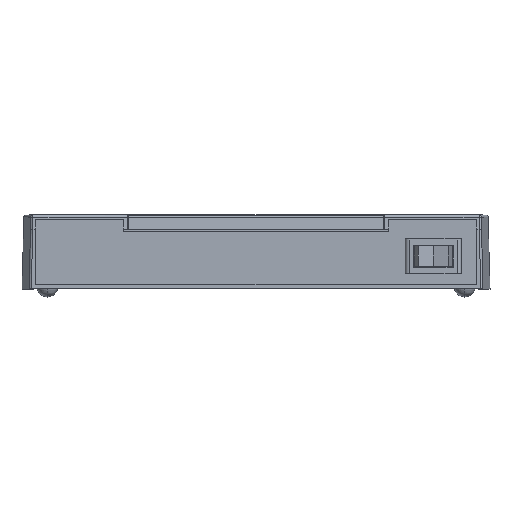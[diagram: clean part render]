
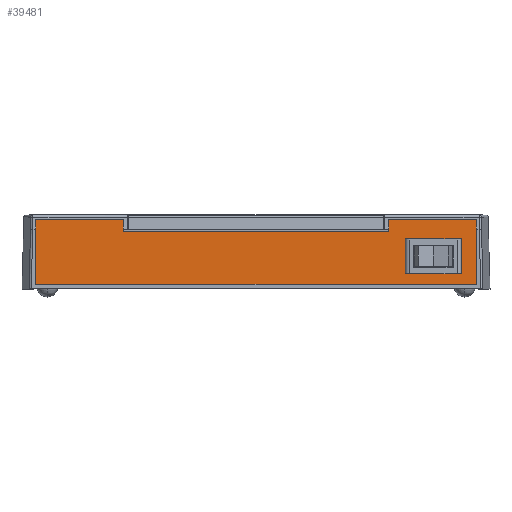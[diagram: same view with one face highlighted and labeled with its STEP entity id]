
A CAD part, top view. The second image highlights one B-rep face of the part: STEP entity #39481.
In plain terms, the highlighted planar face has unit normal (0, 0, 1).
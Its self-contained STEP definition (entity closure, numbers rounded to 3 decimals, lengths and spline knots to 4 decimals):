
#14423=DIRECTION('',(0.,1.,0.));
#14424=VECTOR('',#14423,0.19);
#14425=CARTESIAN_POINT('',(-2.34,1.02,2.8295));
#14426=LINE('',#14425,#14424);
#14427=DIRECTION('',(-1.,0.,0.));
#14428=VECTOR('',#14427,0.6887);
#14429=CARTESIAN_POINT('',(-1.6213,0.99,2.8295));
#14430=LINE('',#14429,#14428);
#14431=DIRECTION('',(1.,0.,0.));
#14432=VECTOR('',#14431,0.049);
#14433=CARTESIAN_POINT('',(-1.6213,0.99,2.8295));
#14434=LINE('',#14433,#14432);
#14435=DIRECTION('',(-1.,0.,0.));
#14436=VECTOR('',#14435,1.3197);
#14437=CARTESIAN_POINT('',(-0.2526,0.99,2.8295));
#14438=LINE('',#14437,#14436);
#14439=DIRECTION('',(1.,0.,0.));
#14440=VECTOR('',#14439,0.049);
#14441=CARTESIAN_POINT('',(-0.2526,0.99,2.8295));
#14442=LINE('',#14441,#14440);
#14443=DIRECTION('',(-1.,0.,0.));
#14444=VECTOR('',#14443,0.4072);
#14445=CARTESIAN_POINT('',(0.2036,0.99,2.8295));
#14446=LINE('',#14445,#14444);
#14447=DIRECTION('',(1.,0.,0.));
#14448=VECTOR('',#14447,0.049);
#14449=CARTESIAN_POINT('',(0.2036,0.99,2.8295));
#14450=LINE('',#14449,#14448);
#14451=DIRECTION('',(-1.,0.,0.));
#14452=VECTOR('',#14451,1.3197);
#14453=CARTESIAN_POINT('',(1.5723,0.99,2.8295));
#14454=LINE('',#14453,#14452);
#14455=DIRECTION('',(1.,0.,0.));
#14456=VECTOR('',#14455,0.049);
#14457=CARTESIAN_POINT('',(1.5723,0.99,2.8295));
#14458=LINE('',#14457,#14456);
#14459=DIRECTION('',(-1.,0.,0.));
#14460=VECTOR('',#14459,0.6887);
#14461=CARTESIAN_POINT('',(2.31,0.99,2.8295));
#14462=LINE('',#14461,#14460);
#14463=DIRECTION('',(0.,-1.,0.));
#14464=VECTOR('',#14463,0.19);
#14465=CARTESIAN_POINT('',(2.34,1.21,2.8295));
#14466=LINE('',#14465,#14464);
#14467=DIRECTION('',(-1.,0.,0.));
#14468=VECTOR('',#14467,1.545);
#14469=CARTESIAN_POINT('',(3.885,1.21,2.8295));
#14470=LINE('',#14469,#14468);
#14471=DIRECTION('',(0.,1.,0.));
#14472=VECTOR('',#14471,1.14);
#14473=CARTESIAN_POINT('',(3.885,0.07,2.8295));
#14474=LINE('',#14473,#14472);
#14475=DIRECTION('',(1.,0.,0.));
#14476=VECTOR('',#14475,7.77);
#14477=CARTESIAN_POINT('',(-3.885,0.07,2.8295));
#14478=LINE('',#14477,#14476);
#14479=DIRECTION('',(0.,-1.,0.));
#14480=VECTOR('',#14479,1.14);
#14481=CARTESIAN_POINT('',(-3.885,1.21,2.8295));
#14482=LINE('',#14481,#14480);
#14483=DIRECTION('',(-1.,0.,0.));
#14484=VECTOR('',#14483,1.545);
#14485=CARTESIAN_POINT('',(-2.34,1.21,2.8295));
#14486=LINE('',#14485,#14484);
#14487=DIRECTION('',(1.,0.,0.));
#14488=VECTOR('',#14487,0.986);
#14489=CARTESIAN_POINT('',(2.632,0.866,2.8295));
#14490=LINE('',#14489,#14488);
#14491=DIRECTION('',(0.,-1.,0.));
#14492=VECTOR('',#14491,0.615);
#14493=CARTESIAN_POINT('',(2.632,0.866,2.8295));
#14494=LINE('',#14493,#14492);
#14495=DIRECTION('',(1.,0.,0.));
#14496=VECTOR('',#14495,0.986);
#14497=CARTESIAN_POINT('',(2.632,0.251,2.8295));
#14498=LINE('',#14497,#14496);
#14499=DIRECTION('',(0.,-1.,0.));
#14500=VECTOR('',#14499,0.615);
#14501=CARTESIAN_POINT('',(3.618,0.866,2.8295));
#14502=LINE('',#14501,#14500);
#14525=CARTESIAN_POINT('',(-2.31,0.99,2.8295));
#14526=CARTESIAN_POINT('',(-2.3125,0.99,2.8295));
#14527=CARTESIAN_POINT('',(-2.3169,0.9906,2.8295));
#14528=CARTESIAN_POINT('',(-2.3243,0.9932,2.8295));
#14529=CARTESIAN_POINT('',(-2.3316,0.9984,2.8295));
#14530=CARTESIAN_POINT('',(-2.3368,1.0057,2.8295));
#14531=CARTESIAN_POINT('',(-2.3394,1.0131,2.8295));
#14532=CARTESIAN_POINT('',(-2.34,1.0175,2.8295));
#14533=CARTESIAN_POINT('',(-2.34,1.02,2.8295));
#14577=CARTESIAN_POINT('',(2.34,1.02,2.8295));
#14578=CARTESIAN_POINT('',(2.34,1.0175,2.8295));
#14579=CARTESIAN_POINT('',(2.3394,1.0131,2.8295));
#14580=CARTESIAN_POINT('',(2.3368,1.0057,2.8295));
#14581=CARTESIAN_POINT('',(2.3316,0.9984,2.8295));
#14582=CARTESIAN_POINT('',(2.3243,0.9932,2.8295));
#14583=CARTESIAN_POINT('',(2.3169,0.9906,2.8295));
#14584=CARTESIAN_POINT('',(2.3125,0.99,2.8295));
#14585=CARTESIAN_POINT('',(2.31,0.99,2.8295));
#14617=CARTESIAN_POINT('',(-1.6213,0.99,2.8295));
#14625=CARTESIAN_POINT('',(-1.5723,0.99,2.8295));
#23899=CARTESIAN_POINT('',(3.885,0.07,2.8295));
#23900=CARTESIAN_POINT('',(3.885,1.21,2.8295));
#23901=VERTEX_POINT('',#23899);
#23902=VERTEX_POINT('',#23900);
#23903=CARTESIAN_POINT('',(-3.885,1.21,2.8295));
#23904=CARTESIAN_POINT('',(-3.885,0.07,2.8295));
#23905=VERTEX_POINT('',#23903);
#23906=VERTEX_POINT('',#23904);
#23907=CARTESIAN_POINT('',(2.34,1.21,2.8295));
#23908=VERTEX_POINT('',#23907);
#23909=CARTESIAN_POINT('',(-2.34,1.21,2.8295));
#23910=VERTEX_POINT('',#23909);
#23939=VERTEX_POINT('',#14617);
#23940=VERTEX_POINT('',#14625);
#23941=CARTESIAN_POINT('',(-0.2526,0.99,2.8295));
#23942=CARTESIAN_POINT('',(-0.2036,0.99,2.8295));
#23943=VERTEX_POINT('',#23941);
#23944=VERTEX_POINT('',#23942);
#23945=CARTESIAN_POINT('',(0.2036,0.99,2.8295));
#23946=CARTESIAN_POINT('',(0.2526,0.99,2.8295));
#23947=VERTEX_POINT('',#23945);
#23948=VERTEX_POINT('',#23946);
#23949=CARTESIAN_POINT('',(1.5723,0.99,2.8295));
#23950=CARTESIAN_POINT('',(1.6213,0.99,2.8295));
#23951=VERTEX_POINT('',#23949);
#23952=VERTEX_POINT('',#23950);
#25096=CARTESIAN_POINT('',(2.31,0.99,2.8295));
#25098=VERTEX_POINT('',#25096);
#25101=CARTESIAN_POINT('',(2.34,1.02,2.8295));
#25102=VERTEX_POINT('',#25101);
#25103=CARTESIAN_POINT('',(-2.34,1.02,2.8295));
#25105=VERTEX_POINT('',#25103);
#25108=CARTESIAN_POINT('',(-2.31,0.99,2.8295));
#25109=VERTEX_POINT('',#25108);
#27891=CARTESIAN_POINT('',(2.632,0.866,2.8295));
#27892=CARTESIAN_POINT('',(3.618,0.866,2.8295));
#27893=VERTEX_POINT('',#27891);
#27894=VERTEX_POINT('',#27892);
#27895=CARTESIAN_POINT('',(2.632,0.251,2.8295));
#27896=CARTESIAN_POINT('',(3.618,0.251,2.8295));
#27897=VERTEX_POINT('',#27895);
#27898=VERTEX_POINT('',#27896);
#39429=CARTESIAN_POINT('',(0.,1.29,2.8295));
#39430=DIRECTION('',(0.,0.,1.));
#39431=DIRECTION('',(1.,0.,0.));
#39432=AXIS2_PLACEMENT_3D('',#39429,#39430,#39431);
#39433=PLANE('',#39432);
#39435=ORIENTED_EDGE('',*,*,#39434,.F.);
#39437=ORIENTED_EDGE('',*,*,#39436,.F.);
#39439=ORIENTED_EDGE('',*,*,#39438,.F.);
#39441=ORIENTED_EDGE('',*,*,#39440,.T.);
#39443=ORIENTED_EDGE('',*,*,#39442,.F.);
#39445=ORIENTED_EDGE('',*,*,#39444,.T.);
#39447=ORIENTED_EDGE('',*,*,#39446,.F.);
#39449=ORIENTED_EDGE('',*,*,#39448,.T.);
#39451=ORIENTED_EDGE('',*,*,#39450,.F.);
#39453=ORIENTED_EDGE('',*,*,#39452,.T.);
#39455=ORIENTED_EDGE('',*,*,#39454,.F.);
#39457=ORIENTED_EDGE('',*,*,#39456,.F.);
#39459=ORIENTED_EDGE('',*,*,#39458,.F.);
#39461=ORIENTED_EDGE('',*,*,#39460,.F.);
#39463=ORIENTED_EDGE('',*,*,#39462,.F.);
#39465=ORIENTED_EDGE('',*,*,#39464,.F.);
#39467=ORIENTED_EDGE('',*,*,#39466,.F.);
#39469=ORIENTED_EDGE('',*,*,#39468,.F.);
#39470=EDGE_LOOP('',(#39435,#39437,#39439,#39441,#39443,#39445,#39447,#39449,
#39451,#39453,#39455,#39457,#39459,#39461,#39463,#39465,#39467,#39469));
#39471=FACE_OUTER_BOUND('',#39470,.F.);
#39472=ORIENTED_EDGE('',*,*,#39415,.F.);
#39474=ORIENTED_EDGE('',*,*,#39473,.T.);
#39476=ORIENTED_EDGE('',*,*,#39475,.T.);
#39478=ORIENTED_EDGE('',*,*,#39477,.F.);
#39479=EDGE_LOOP('',(#39472,#39474,#39476,#39478));
#39480=FACE_BOUND('',#39479,.F.);
#39481=ADVANCED_FACE('',(#39471,#39480),#39433,.T.);
#14534=B_SPLINE_CURVE_WITH_KNOTS('',3,(#14525,#14526,#14527,#14528,#14529,
#14530,#14531,#14532,#14533),.UNSPECIFIED.,.F.,.F.,(4,1,1,1,1,1,4),(0.,
0.125,0.25,0.5,0.75,0.875,1.),.UNSPECIFIED.);
#14586=B_SPLINE_CURVE_WITH_KNOTS('',3,(#14577,#14578,#14579,#14580,#14581,
#14582,#14583,#14584,#14585),.UNSPECIFIED.,.F.,.F.,(4,1,1,1,1,1,4),(0.,
0.125,0.25,0.5,0.75,0.875,1.),.UNSPECIFIED.);
#39415=EDGE_CURVE('',#27893,#27894,#14490,.T.);
#39434=EDGE_CURVE('',#25105,#23910,#14426,.T.);
#39436=EDGE_CURVE('',#25109,#25105,#14534,.T.);
#39438=EDGE_CURVE('',#23939,#25109,#14430,.T.);
#39440=EDGE_CURVE('',#23939,#23940,#14434,.T.);
#39442=EDGE_CURVE('',#23943,#23940,#14438,.T.);
#39444=EDGE_CURVE('',#23943,#23944,#14442,.T.);
#39446=EDGE_CURVE('',#23947,#23944,#14446,.T.);
#39448=EDGE_CURVE('',#23947,#23948,#14450,.T.);
#39450=EDGE_CURVE('',#23951,#23948,#14454,.T.);
#39452=EDGE_CURVE('',#23951,#23952,#14458,.T.);
#39454=EDGE_CURVE('',#25098,#23952,#14462,.T.);
#39456=EDGE_CURVE('',#25102,#25098,#14586,.T.);
#39458=EDGE_CURVE('',#23908,#25102,#14466,.T.);
#39460=EDGE_CURVE('',#23902,#23908,#14470,.T.);
#39462=EDGE_CURVE('',#23901,#23902,#14474,.T.);
#39464=EDGE_CURVE('',#23906,#23901,#14478,.T.);
#39466=EDGE_CURVE('',#23905,#23906,#14482,.T.);
#39468=EDGE_CURVE('',#23910,#23905,#14486,.T.);
#39473=EDGE_CURVE('',#27893,#27897,#14494,.T.);
#39475=EDGE_CURVE('',#27897,#27898,#14498,.T.);
#39477=EDGE_CURVE('',#27894,#27898,#14502,.T.);
